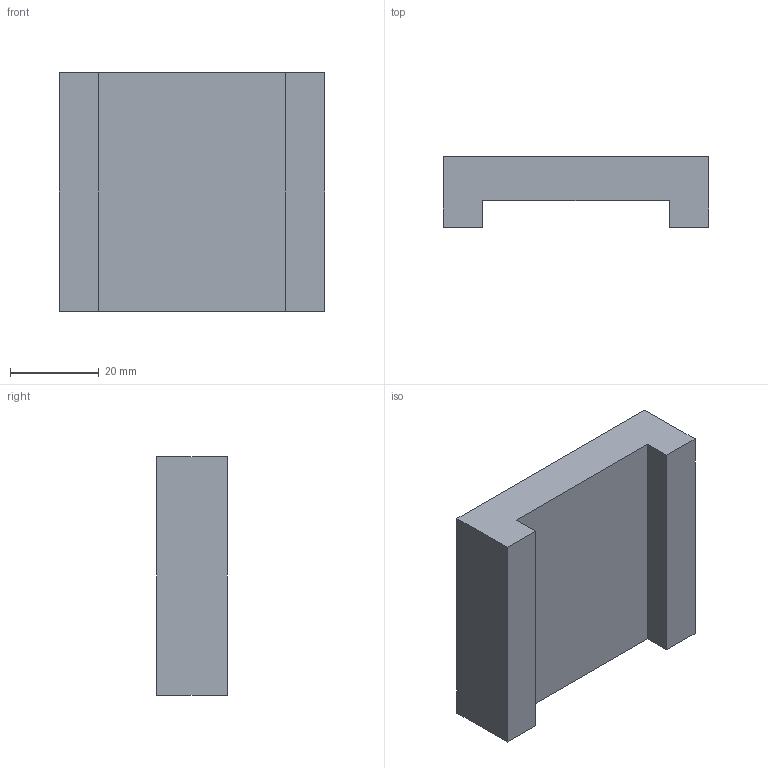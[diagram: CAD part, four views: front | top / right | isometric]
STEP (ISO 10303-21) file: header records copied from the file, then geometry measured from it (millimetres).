
FILE_DESCRIPTION (( 'STEP AP203' ), '1' );
FILE_NAME ('Separator_train.step', '2026-06-05T03:33:00', ( '' ), ( '' ), 'SwSTEP 2.0', 'SolidWorks 2024', '' );
FILE_SCHEMA (( 'CONFIG_CONTROL_DESIGN' ));
Length unit declared in the file: millimetre
Products named in the file (1): Separator_train
Bounding box: 60 x 16 x 53.8 mm (x, y, z)
Volume: 37653.3 mm3; surface area: 10452.7 mm2
Topology: 1 solids, 1 shells, 22 faces, 48 edges, 32 vertices
Faces by surface type: plane 14, cylinder 8
Entity records: 685 total; most frequent: DIRECTION 110, CARTESIAN_POINT 103, ORIENTED_EDGE 96, EDGE_CURVE 48, AXIS2_PLACEMENT_3D 39, VERTEX_POINT 32, LINE 32, VECTOR 32
